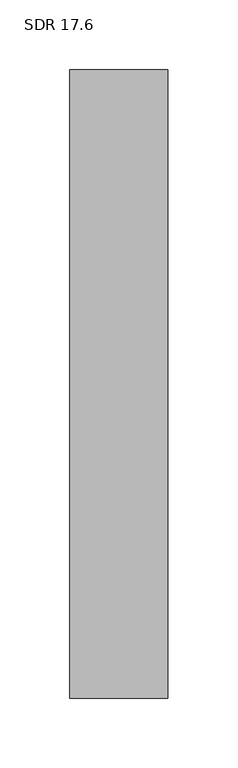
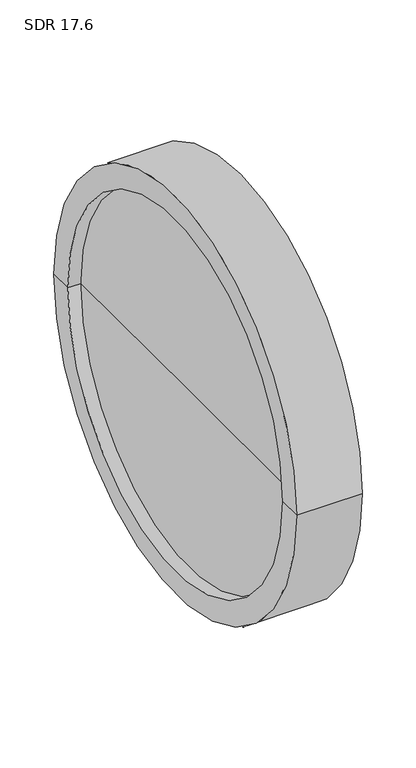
"""IFC4 building model written with IfcOpenShell, lengths in millimetres: pipe fitting geometry, Aquatherm - End Cap Butt-Weld : SDR 17.6."""

import ifcopenshell
import ifcopenshell.guid

model = None  # the IFC model being written
_history = None  # IfcOwnerHistory: only IFC2X3 demands one
_inside = {}  # id of a spatial element -> (the spatial element, [elements in it])
_under = {}  # id of a project, library or spatial element -> (it, [spatial elements below it])
_declared = {}  # id of a project -> (the project, [libraries it declares])
_typed = {}  # id of a type object -> (the type object, [elements of that type])
_made_of = {}  # id of a material, layer set ... -> (it, [elements and type objects made of it])


def new_model(schema):
    """Start an empty IFC model of exactly this schema.

    Asked for "IFC4X3", IfcOpenShell would pick the latest addendum, in which some entities
    have other attributes; the version numbers below select the first issue.
    IFC2X3 requires an IfcOwnerHistory on every rooted entity: one is made here for all.
    """
    global model, _history
    if schema == "IFC4X3":
        model = ifcopenshell.file(schema_version=(4, 3, 0, 0))
    else:
        model = ifcopenshell.file(schema=schema)
    _inside.clear()
    _under.clear()
    _declared.clear()
    _typed.clear()
    _made_of.clear()
    _history = None
    if model.schema == "IFC2X3":
        org = make("IfcOrganization", Name="unknown")
        user = make(
            "IfcPersonAndOrganization",
            ThePerson=make("IfcPerson", FamilyName="unknown"),
            TheOrganization=org,
        )
        app = make(
            "IfcApplication",
            ApplicationDeveloper=org,
            Version="unknown",
            ApplicationFullName="unknown",
            ApplicationIdentifier="unknown",
        )
        _history = make(
            "IfcOwnerHistory",
            OwningUser=user,
            OwningApplication=app,
            ChangeAction="ADDED",
            CreationDate=0,
        )
    return model


def make(cls, **values):
    """One entity of the class cls with the attributes given. An attribute that is None is left unset."""
    return model.create_entity(
        cls, **{name: value for name, value in values.items() if value is not None}
    )


def rooted(cls, **values):
    """An entity with a GlobalId (a new one), such as an element, a storey or a relation."""
    return make(cls, GlobalId=ifcopenshell.guid.new(), OwnerHistory=_history, **values)


def si_unit(unit_type, name, prefix=None):
    """IfcSIUnit, for example si_unit("LENGTHUNIT", "METRE", prefix="MILLI")."""
    return make("IfcSIUnit", UnitType=unit_type, Prefix=prefix, Name=name)


def assignment(units):
    """IfcUnitAssignment: the units of a project."""
    return None if units is None else make("IfcUnitAssignment", Units=units)


def point(xyz):
    """IfcCartesianPoint."""
    return None if xyz is None else make("IfcCartesianPoint", Coordinates=xyz)


def direction(xyz):
    """IfcDirection."""
    return None if xyz is None else make("IfcDirection", DirectionRatios=xyz)


def frame(location, z_axis=None, x_axis=None):
    """IfcAxis2Placement3D, a coordinate frame: its origin and axes. An axis left out is left unset."""
    return make(
        "IfcAxis2Placement3D",
        Location=point(location),
        Axis=direction(z_axis),
        RefDirection=direction(x_axis),
    )


def origin():
    """The frame at (0, 0, 0) with its axes left unset."""
    return frame((0.0, 0.0, 0.0))


def place(relative_to, where):
    """IfcLocalPlacement: puts the frame where relative to a parent placement (None: the world)."""
    return make(
        "IfcLocalPlacement", PlacementRelTo=relative_to, RelativePlacement=where
    )


def context(
    kind, dimensions, precision=None, world=None, true_north=None, identifier=None
):
    """IfcGeometricRepresentationContext, for example the 3D "Model" context."""
    return make(
        "IfcGeometricRepresentationContext",
        ContextIdentifier=identifier,
        ContextType=kind,
        CoordinateSpaceDimension=dimensions,
        Precision=precision,
        WorldCoordinateSystem=world,
        TrueNorth=true_north,
    )


def project(units=None, contexts=None):
    """IfcProject with its units and contexts."""
    return rooted(
        "IfcProject",
        Name="project",
        RepresentationContexts=contexts,
        UnitsInContext=assignment(units),
    )


def spatial(cls, under=None, at=None, **own):
    """A site, building, storey or space (cls), placed at a placement, below another one or the project."""
    s = rooted(cls, ObjectPlacement=at, **own)
    if under is not None:
        _under.setdefault(under.id(), (under, []))[1].append(s)
    return s


def polyline(points):
    """IfcPolyline through the points."""
    return make("IfcPolyline", Points=[point(p) for p in points])


def circle_curve(where, radius):
    """IfcCircle in the frame where."""
    return make("IfcCircle", Position=where, Radius=radius)


def shape(context_of_items, identifier, shape_type, items):
    """IfcShapeRepresentation: the items that make up one representation, for example the "Body"."""
    return make(
        "IfcShapeRepresentation",
        ContextOfItems=context_of_items,
        RepresentationIdentifier=identifier,
        RepresentationType=shape_type,
        Items=items,
    )


def source(mapping_origin, context_of_items, identifier, shape_type, items):
    """IfcRepresentationMap: a shape defined once, which mapped items show again and again."""
    return make(
        "IfcRepresentationMap",
        MappingOrigin=mapping_origin,
        MappedRepresentation=shape(context_of_items, identifier, shape_type, items),
    )


def transform(
    local_origin,
    x_axis=None,
    y_axis=None,
    z_axis=None,
    scale=None,
    scale2=None,
    scale3=None,
    uniform=True,
):
    """IfcCartesianTransformationOperator3D, or its non-uniform kind. x_axis, y_axis, z_axis: its Axis1, 2, 3."""
    if uniform:
        return make(
            "IfcCartesianTransformationOperator3D",
            Axis1=direction(x_axis),
            Axis2=direction(y_axis),
            LocalOrigin=point(local_origin),
            Scale=scale,
            Axis3=direction(z_axis),
        )
    return make(
        "IfcCartesianTransformationOperator3DnonUniform",
        Axis1=direction(x_axis),
        Axis2=direction(y_axis),
        LocalOrigin=point(local_origin),
        Scale=scale,
        Axis3=direction(z_axis),
        Scale2=scale2,
        Scale3=scale3,
    )


def mapped(mapping_source, mapping_target):
    """IfcMappedItem: shows the shape of a source again, moved by a transform."""
    return make(
        "IfcMappedItem", MappingSource=mapping_source, MappingTarget=mapping_target
    )


def made_of(thing, what):
    """Note that an element or type object is made of a material, layer set ...; save() writes the relation."""
    if what is not None:
        _made_of.setdefault(what.id(), (what, []))[1].append(thing)
    return thing


def element(
    cls,
    number,
    at=None,
    inside=None,
    cuts=None,
    type_object=None,
    material=None,
    context=None,
    identifier="Body",
    shape_type=None,
    held_by="IfcProductDefinitionShape",
    body=None,
    shapes=None,
    **own,
):
    """One element of the class cls, such as IfcWall. Its Tag is "e" and its number.

    at: its placement. inside: the storey or other place that contains it. cuts: it is an
    opening in that element (IfcRelVoidsElement). A single representation is given by context,
    identifier, shape_type and body (its items); several are given by shapes. held_by: the class
    of the entity that holds the representations. save() writes the other relations.
    """
    e = rooted(cls, Tag="e%d" % number, ObjectPlacement=at, **own)
    if body is not None:
        shapes = [shape(context, identifier, shape_type, body)]
    if shapes is not None:
        e.Representation = make(held_by, Representations=shapes)
    if inside is not None:
        _inside.setdefault(inside.id(), (inside, []))[1].append(e)
    if cuts is not None:
        rooted(
            "IfcRelVoidsElement", RelatingBuildingElement=cuts, RelatedOpeningElement=e
        )
    if type_object is not None:
        _typed.setdefault(type_object.id(), (type_object, []))[1].append(e)
    return made_of(e, material)


def aggregate(whole, parts):
    """IfcRelAggregates: a whole, such as a stair, and the parts it consists of."""
    return rooted("IfcRelAggregates", RelatingObject=whole, RelatedObjects=parts)


def save(model, path):
    """Write the relations noted so far, then the file.

    IfcRelAggregates (storeys below a building ...), IfcRelContainedInSpatialStructure (elements
    in a storey), IfcRelDefinesByType, IfcRelAssociatesMaterial and IfcRelDeclares: one each for
    every whole, place, type object, material and project.
    """
    for whole, parts in _under.values():
        aggregate(whole, parts)
    for where, things in _inside.values():
        rooted(
            "IfcRelContainedInSpatialStructure",
            RelatedElements=things,
            RelatingStructure=where,
        )
    for kind, things in _typed.values():
        rooted("IfcRelDefinesByType", RelatedObjects=things, RelatingType=kind)
    for what, things in _made_of.values():
        rooted("IfcRelAssociatesMaterial", RelatedObjects=things, RelatingMaterial=what)
    for by, libraries in _declared.values():
        rooted("IfcRelDeclares", RelatingContext=by, RelatedDefinitions=libraries)
    model.write(path)


def plane_surface(at):
    """IfcPlane: the flat surface through the origin of the frame at, square to its z axis."""
    return make("IfcPlane", Position=at)


def cylinder_surface(at, radius):
    """IfcCylindricalSurface: all points at the distance radius from the z axis of the frame at."""
    return make("IfcCylindricalSurface", Position=at, Radius=radius)


def revolved_surface(curve, axis_point, axis_direction):
    """IfcSurfaceOfRevolution: the curve turned about the line through axis_point along axis_direction."""
    return make(
        "IfcSurfaceOfRevolution",
        SweptCurve=make("IfcArbitraryOpenProfileDef", ProfileType="CURVE", Curve=curve),
        AxisPosition=make("IfcAxis1Placement", Location=point(axis_point), Axis=direction(axis_direction)),
    )


def advanced_brep(points, edges, surfaces, faces):
    """IfcAdvancedBrep: a solid bounded by faces that lie on surfaces and meet in shared edges.

    An edge is (start, end): straight between two places in points (the first is 0);
    or (start, end, curve); or (start, end, curve, False) where it runs against its curve.
    A face is (place in surfaces, loops), or (place, loops, False) where it looks against
    its surface's normal. A loop lists edges by number (the first is 1), with a minus sign
    where the edge is run from its end to its start. The first loop is the outer one.
    """
    corners = [point(p) for p in points]
    vertices = [make("IfcVertexPoint", VertexGeometry=c) for c in corners]
    made = []
    for start, end, *more in edges:
        made.append(
            make(
                "IfcEdgeCurve",
                EdgeStart=vertices[start],
                EdgeEnd=vertices[end],
                EdgeGeometry=more[0] if more else make("IfcPolyline", Points=[corners[start], corners[end]]),
                SameSense=more[1] if len(more) > 1 else True,
            )
        )
    hull = []
    for where, loops, *sense in faces:
        bounds = []
        for j, loop in enumerate(loops):
            ring = [make("IfcOrientedEdge", EdgeElement=made[abs(k) - 1], Orientation=k > 0) for k in loop]
            bounds.append(
                make(
                    "IfcFaceOuterBound" if j == 0 else "IfcFaceBound",
                    Bound=make("IfcEdgeLoop", EdgeList=ring),
                    Orientation=True,
                )
            )
        hull.append(make("IfcAdvancedFace", Bounds=bounds, FaceSurface=surfaces[where], SameSense=sense[0] if sense else True))
    return make("IfcAdvancedBrep", Outer=make("IfcClosedShell", CfsFaces=hull))


def sdr_17_6_071ae91d(model_context):
    return source(origin(), model_context, "Body", "AdvancedBrep", [
        advanced_brep(
        [(70.104, -224.79, 0.0), (70.104, 224.79, 0.0), (70.104, 0.0, 0.0), (14.224, 0.0, 0.0), (14.224, 199.39, 0.0), (14.224, -199.39, 0.0), (0.0, 199.39, 0.0), (0.0, -199.39, 0.0), (0.0, 224.79, 0.0), (0.0, -224.79, 0.0)],
        [
            (0, 1, circle_curve(frame((70.104, 0.0, 0.0), z_axis=(1.0, 0.0, 0.0), x_axis=(0.0, 1.0, 0.0)), 224.79)),
            (1, 2),
            (2, 0),
            (1, 0, circle_curve(frame((70.104, 0.0, 0.0), z_axis=(1.0, 0.0, 0.0), x_axis=(0.0, 1.0, 0.0)), 224.79)),
            (3, 4),
            (4, 5, circle_curve(frame((14.224, 0.0, 0.0), z_axis=(-1.0, 0.0, 0.0), x_axis=(0.0, 1.0, 0.0)), 199.39)),
            (5, 3),
            (5, 4, circle_curve(frame((14.224, 0.0, 0.0), z_axis=(-1.0, 0.0, 0.0), x_axis=(0.0, 1.0, 0.0)), 199.39)),
            (4, 6),
            (6, 7, circle_curve(frame((0.0, 0.0, 0.0), z_axis=(-1.0, 0.0, 0.0), x_axis=(0.0, 1.0, 0.0)), 199.39)),
            (7, 5),
            (7, 6, circle_curve(frame((0.0, 0.0, 0.0), z_axis=(-1.0, 0.0, 0.0), x_axis=(0.0, 1.0, 0.0)), 199.39)),
            (6, 8),
            (8, 9, circle_curve(frame((0.0, 0.0, 0.0), z_axis=(-1.0, 0.0, 0.0), x_axis=(0.0, 1.0, 0.0)), 224.79)),
            (9, 7),
            (9, 8, circle_curve(frame((0.0, 0.0, 0.0), z_axis=(-1.0, 0.0, 0.0), x_axis=(0.0, 1.0, 0.0)), 224.79)),
            (8, 1),
            (0, 9),
        ],
        [
            plane_surface(frame((70.104, 0.0, 0.0), z_axis=(1.0, 0.0, 0.0), x_axis=(0.0, 1.0, 0.0))),
            plane_surface(frame((14.224, 0.0, 0.0), z_axis=(-1.0, 0.0, 0.0), x_axis=(0.0, 1.0, 0.0))),
            revolved_surface(polyline([(0.0, 199.39, 0.0), (14.223999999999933, 199.39, 0.0)]), (-1373.886, 0.0, 0.0), (-1.0, 0.0, 0.0)),
            plane_surface(frame((0.0, 0.0, 0.0), z_axis=(-1.0, 0.0, 0.0), x_axis=(0.0, 1.0, 0.0))),
            cylinder_surface(frame((-1373.886, 0.0, 0.0), z_axis=(-1.0, 0.0, 0.0), x_axis=(0.0, 1.0, 0.0)), 224.79),
        ],
        [
            (0, [[1, 2, 3]]),
            (0, [[4, -3, -2]]),
            (1, [[5, 6, 7]]),
            (1, [[-7, 8, -5]]),
            (2, [[-6, 9, 10, 11]]),
            (2, [[-8, -11, 12, -9]]),
            (3, [[-10, 13, 14, 15]]),
            (3, [[-12, -15, 16, -13]]),
            (4, [[-14, 17, -1, 18]]),
            (4, [[-16, -18, -4, -17]]),
        ],
    ),
    ])


if __name__ == "__main__":
    model = new_model("IFC4")
    model_context = context("Model", 3, world=origin())
    ifc_project = project(units=[si_unit("LENGTHUNIT", "METRE", prefix="MILLI")], contexts=[model_context])
    site = spatial("IfcSite", under=ifc_project)
    building = spatial("IfcBuilding", under=site)
    placement = place(None, origin())
    sdr_17_6_shape = sdr_17_6_071ae91d(model_context)
    element("IfcPipeFitting", 1, ObjectType="Aquatherm - End Cap Butt-Weld : SDR 17.6", at=placement, inside=building, context=model_context, shape_type="MappedRepresentation", body=[
        mapped(sdr_17_6_shape, transform((0.0, 0.0, 0.0), x_axis=(1.0, 0.0, 0.0), y_axis=(0.0, 1.0, 0.0), z_axis=(0.0, 0.0, 1.0))),
    ])
    save(model, "model.ifc")
